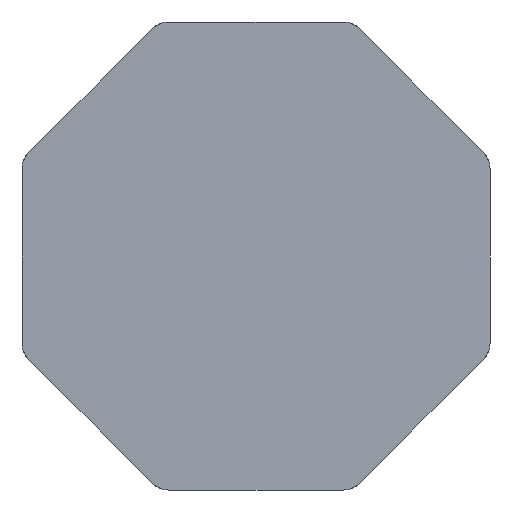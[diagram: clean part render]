
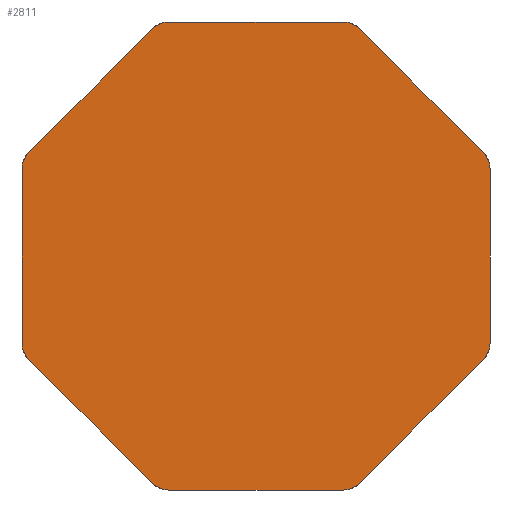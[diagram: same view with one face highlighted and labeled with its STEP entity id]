
A CAD part, left-side view. The second image highlights one B-rep face of the part: STEP entity #2811.
In plain terms, the highlighted planar face has unit normal (-1, 0, 0) as drawn and (0, 0, 1) by its records, which use the part's own axes.
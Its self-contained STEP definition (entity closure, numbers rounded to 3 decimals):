
#2811=ADVANCED_FACE('',(#3206),#2950,.F.);
#2950=PLANE('',#7532);
#3206=FACE_OUTER_BOUND('',#3542,.T.);
#3542=EDGE_LOOP('',(#5119,#5120,#5121,#5122,#5123,#5124,#5125,#5126,#5127,
#5128,#5129,#5130,#5131,#5132,#5133,#5134));
#3743=CIRCLE('',#7524,10.);
#3744=CIRCLE('',#7525,10.);
#3745=CIRCLE('',#7526,10.);
#3746=CIRCLE('',#7527,10.);
#3747=CIRCLE('',#7528,10.);
#3748=CIRCLE('',#7529,10.);
#3749=CIRCLE('',#7530,10.);
#3750=CIRCLE('',#7531,10.);
#5119=ORIENTED_EDGE('',*,*,#6367,.T.);
#5120=ORIENTED_EDGE('',*,*,#6368,.T.);
#5121=ORIENTED_EDGE('',*,*,#6369,.T.);
#5122=ORIENTED_EDGE('',*,*,#6370,.T.);
#5123=ORIENTED_EDGE('',*,*,#6371,.T.);
#5124=ORIENTED_EDGE('',*,*,#6372,.T.);
#5125=ORIENTED_EDGE('',*,*,#6373,.T.);
#5126=ORIENTED_EDGE('',*,*,#6374,.T.);
#5127=ORIENTED_EDGE('',*,*,#6375,.T.);
#5128=ORIENTED_EDGE('',*,*,#6376,.T.);
#5129=ORIENTED_EDGE('',*,*,#6377,.T.);
#5130=ORIENTED_EDGE('',*,*,#6378,.T.);
#5131=ORIENTED_EDGE('',*,*,#6379,.T.);
#5132=ORIENTED_EDGE('',*,*,#6380,.T.);
#5133=ORIENTED_EDGE('',*,*,#6381,.T.);
#5134=ORIENTED_EDGE('',*,*,#6382,.T.);
#5659=VERTEX_POINT('',#11046);
#5660=VERTEX_POINT('',#11047);
#5661=VERTEX_POINT('',#11049);
#5662=VERTEX_POINT('',#11051);
#5663=VERTEX_POINT('',#11053);
#5664=VERTEX_POINT('',#11055);
#5665=VERTEX_POINT('',#11057);
#5666=VERTEX_POINT('',#11059);
#5667=VERTEX_POINT('',#11061);
#5668=VERTEX_POINT('',#11063);
#5669=VERTEX_POINT('',#11065);
#5670=VERTEX_POINT('',#11067);
#5671=VERTEX_POINT('',#11069);
#5672=VERTEX_POINT('',#11071);
#5673=VERTEX_POINT('',#11073);
#5674=VERTEX_POINT('',#11075);
#6367=EDGE_CURVE('',#5659,#5660,#6707,.T.);
#6368=EDGE_CURVE('',#5660,#5661,#3743,.T.);
#6369=EDGE_CURVE('',#5661,#5662,#6708,.T.);
#6370=EDGE_CURVE('',#5662,#5663,#3744,.T.);
#6371=EDGE_CURVE('',#5663,#5664,#6709,.T.);
#6372=EDGE_CURVE('',#5664,#5665,#3745,.T.);
#6373=EDGE_CURVE('',#5665,#5666,#6710,.T.);
#6374=EDGE_CURVE('',#5666,#5667,#3746,.T.);
#6375=EDGE_CURVE('',#5667,#5668,#6711,.T.);
#6376=EDGE_CURVE('',#5668,#5669,#3747,.T.);
#6377=EDGE_CURVE('',#5669,#5670,#6712,.T.);
#6378=EDGE_CURVE('',#5670,#5671,#3748,.T.);
#6379=EDGE_CURVE('',#5671,#5672,#6713,.T.);
#6380=EDGE_CURVE('',#5672,#5673,#3749,.T.);
#6381=EDGE_CURVE('',#5673,#5674,#6714,.T.);
#6382=EDGE_CURVE('',#5674,#5659,#3750,.T.);
#6707=LINE('',#11045,#7039);
#6708=LINE('',#11050,#7040);
#6709=LINE('',#11054,#7041);
#6710=LINE('',#11058,#7042);
#6711=LINE('',#11062,#7043);
#6712=LINE('',#11066,#7044);
#6713=LINE('',#11070,#7045);
#6714=LINE('',#11074,#7046);
#7039=VECTOR('',#8780,1.);
#7040=VECTOR('',#8783,1.);
#7041=VECTOR('',#8786,1.);
#7042=VECTOR('',#8789,1.);
#7043=VECTOR('',#8792,1.);
#7044=VECTOR('',#8795,1.);
#7045=VECTOR('',#8798,1.);
#7046=VECTOR('',#8801,1.);
#7524=AXIS2_PLACEMENT_3D('',#11048,#8781,#8782);
#7525=AXIS2_PLACEMENT_3D('',#11052,#8784,#8785);
#7526=AXIS2_PLACEMENT_3D('',#11056,#8787,#8788);
#7527=AXIS2_PLACEMENT_3D('',#11060,#8790,#8791);
#7528=AXIS2_PLACEMENT_3D('',#11064,#8793,#8794);
#7529=AXIS2_PLACEMENT_3D('',#11068,#8796,#8797);
#7530=AXIS2_PLACEMENT_3D('',#11072,#8799,#8800);
#7531=AXIS2_PLACEMENT_3D('',#11076,#8802,#8803);
#7532=AXIS2_PLACEMENT_3D('',#11077,#8804,#8805);
#8780=DIRECTION('',(-0.707,0.707,0.));
#8781=DIRECTION('',(0.,0.,1.));
#8782=DIRECTION('',(0.,-1.,0.));
#8783=DIRECTION('',(-1.,0.,0.));
#8784=DIRECTION('',(0.,0.,1.));
#8785=DIRECTION('',(0.,-1.,0.));
#8786=DIRECTION('',(-0.707,-0.707,0.));
#8787=DIRECTION('',(0.,0.,1.));
#8788=DIRECTION('',(0.,-1.,0.));
#8789=DIRECTION('',(0.,-1.,0.));
#8790=DIRECTION('',(0.,0.,1.));
#8791=DIRECTION('',(0.,-1.,0.));
#8792=DIRECTION('',(0.707,-0.707,0.));
#8793=DIRECTION('',(0.,0.,1.));
#8794=DIRECTION('',(0.,-1.,0.));
#8795=DIRECTION('',(1.,0.,0.));
#8796=DIRECTION('',(0.,0.,1.));
#8797=DIRECTION('',(0.,-1.,0.));
#8798=DIRECTION('',(0.707,0.707,0.));
#8799=DIRECTION('',(0.,0.,1.));
#8800=DIRECTION('',(0.,-1.,0.));
#8801=DIRECTION('',(0.,1.,0.));
#8802=DIRECTION('',(0.,0.,1.));
#8803=DIRECTION('',(0.,-1.,0.));
#8804=DIRECTION('',(0.,0.,-1.));
#8805=DIRECTION('',(0.,-1.,0.));
#11045=CARTESIAN_POINT('',(101.,41.836,30.38));
#11046=CARTESIAN_POINT('',(98.071,44.765,30.38));
#11047=CARTESIAN_POINT('',(44.765,98.071,30.38));
#11048=CARTESIAN_POINT('',(37.694,91.,30.38));
#11049=CARTESIAN_POINT('',(37.694,101.,30.38));
#11050=CARTESIAN_POINT('',(0.,101.,30.38));
#11051=CARTESIAN_POINT('',(-37.694,101.,30.38));
#11052=CARTESIAN_POINT('',(-37.694,91.,30.38));
#11053=CARTESIAN_POINT('',(-44.765,98.071,30.38));
#11054=CARTESIAN_POINT('',(-41.836,101.,30.38));
#11055=CARTESIAN_POINT('',(-98.071,44.765,30.38));
#11056=CARTESIAN_POINT('',(-91.,37.694,30.38));
#11057=CARTESIAN_POINT('',(-101.,37.694,30.38));
#11058=CARTESIAN_POINT('',(-101.,0.,30.38));
#11059=CARTESIAN_POINT('',(-101.,-37.694,30.38));
#11060=CARTESIAN_POINT('',(-91.,-37.694,30.38));
#11061=CARTESIAN_POINT('',(-98.071,-44.765,30.38));
#11062=CARTESIAN_POINT('',(-101.,-41.836,30.38));
#11063=CARTESIAN_POINT('',(-44.765,-98.071,30.38));
#11064=CARTESIAN_POINT('',(-37.694,-91.,30.38));
#11065=CARTESIAN_POINT('',(-37.694,-101.,30.38));
#11066=CARTESIAN_POINT('',(0.,-101.,30.38));
#11067=CARTESIAN_POINT('',(37.694,-101.,30.38));
#11068=CARTESIAN_POINT('',(37.694,-91.,30.38));
#11069=CARTESIAN_POINT('',(44.765,-98.071,30.38));
#11070=CARTESIAN_POINT('',(41.836,-101.,30.38));
#11071=CARTESIAN_POINT('',(98.071,-44.765,30.38));
#11072=CARTESIAN_POINT('',(91.,-37.694,30.38));
#11073=CARTESIAN_POINT('',(101.,-37.694,30.38));
#11074=CARTESIAN_POINT('',(101.,0.,30.38));
#11075=CARTESIAN_POINT('',(101.,37.694,30.38));
#11076=CARTESIAN_POINT('',(91.,37.694,30.38));
#11077=CARTESIAN_POINT('',(-91.,0.,30.38));
